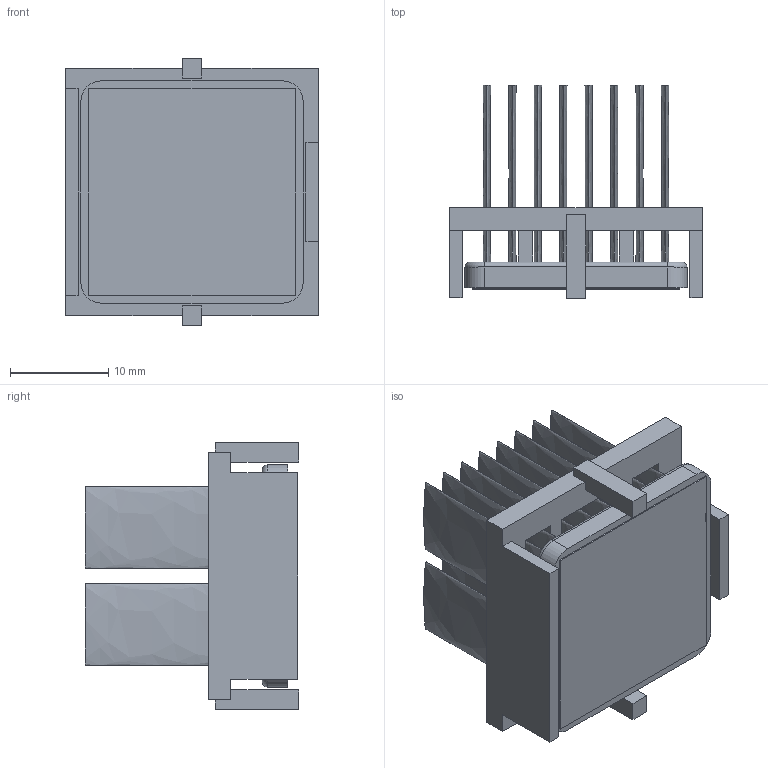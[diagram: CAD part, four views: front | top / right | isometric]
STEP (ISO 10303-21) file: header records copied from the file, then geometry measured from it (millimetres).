
FILE_DESCRIPTION (( 'STEP AP214' ), '1' );
FILE_NAME ('INM23001-21W_2.6+O.STEP', '2023-02-15T19:18:48', ( '' ), ( '' ), 'SwSTEP 2.0', 'SolidWorks 2020', '' );
FILE_SCHEMA (( 'AUTOMOTIVE_DESIGN' ));
Length unit declared in the file: inch
Products named in the file (1): INM23001-21W_2.6+O
Bounding box: 25.7 x 21.7 x 27.2 mm (x, y, z)
Volume: 3880.1 mm3; surface area: 8787.2 mm2
Topology: 3 solids, 3 shells, 126 faces, 304 edges, 200 vertices
Faces by surface type: plane 82, bspline 32, cylinder 8, torus 4
Entity records: 5404 total; most frequent: CARTESIAN_POINT 1047, ORIENTED_EDGE 608, DIRECTION 450, EDGE_CURVE 304, VECTOR 220, LINE 220, VERTEX_POINT 200, EDGE_LOOP 144
